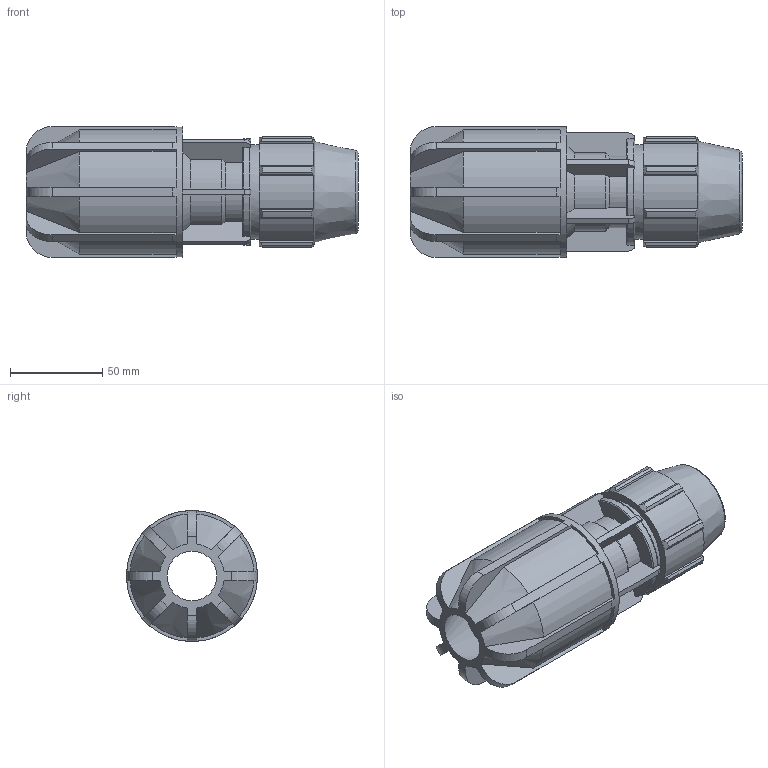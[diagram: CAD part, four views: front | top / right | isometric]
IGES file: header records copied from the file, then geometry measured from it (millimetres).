
Global section: file name: 070170032027_180170032027_0701760320270A.ipt; native system: Autodesk Inventor 2015; preprocessor: unknown; author: KIM; date: 20170606.172103; units: millimetre
Bounding box: 180 x 71 x 71 mm (x, y, z)
Volume: 313364 mm3; surface area: 72061.3 mm2
Topology: 1 solids, 1 shells, 220 faces, 635 edges, 422 vertices
Faces by surface type: plane 111, cylinder 58, cone 30, revolution 21
Full cylindrical faces by diameter (mm): 51.2 x1, 71 x1
